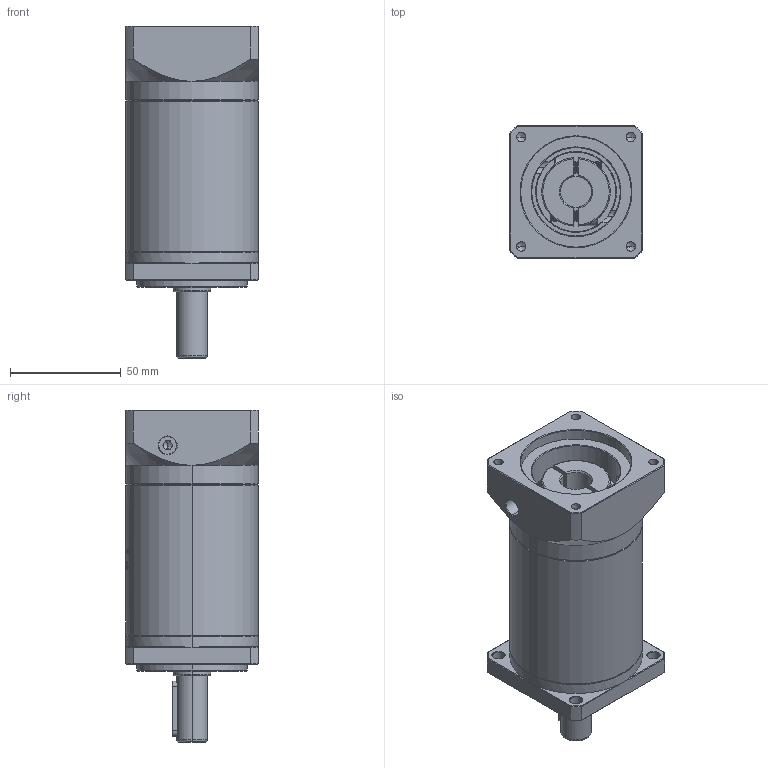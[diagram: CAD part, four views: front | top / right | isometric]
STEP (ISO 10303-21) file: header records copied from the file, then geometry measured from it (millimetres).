
FILE_DESCRIPTION (( 'STEP AP214' ), '1' );
FILE_NAME ('ZF60-D14-L3-14-50-70-M5.STEP', '2022-04-17T11:51:13', ( '' ), ( 'Microsoft' ), 'SwSTEP 2.0', 'SolidWorks 2016', '' );
FILE_SCHEMA (( 'AUTOMOTIVE_DESIGN' ));
Length unit declared in the file: millimetre
Products named in the file (1): ZF60-D14-L3-14-50-70-M5
Bounding box: 60 x 60 x 150 mm (x, y, z)
Volume: 319661.2 mm3; surface area: 50163.1 mm2
Topology: 6 solids, 6 shells, 1516 faces, 4074 edges, 2634 vertices
Faces by surface type: plane 736, bspline 287, cylinder 239, cone 234, torus 20
Entity records: 79562 total; most frequent: CARTESIAN_POINT 27913, ORIENTED_EDGE 8120, DIRECTION 6141, EDGE_CURVE 4060, VERTEX_POINT 2634, LINE 2119, VECTOR 2119, AXIS2_PLACEMENT_3D 2011
